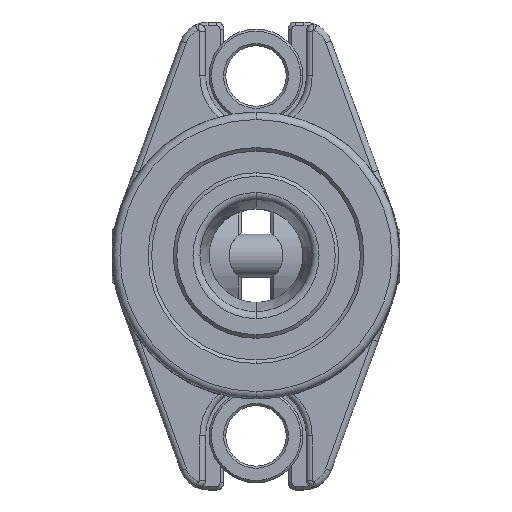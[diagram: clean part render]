
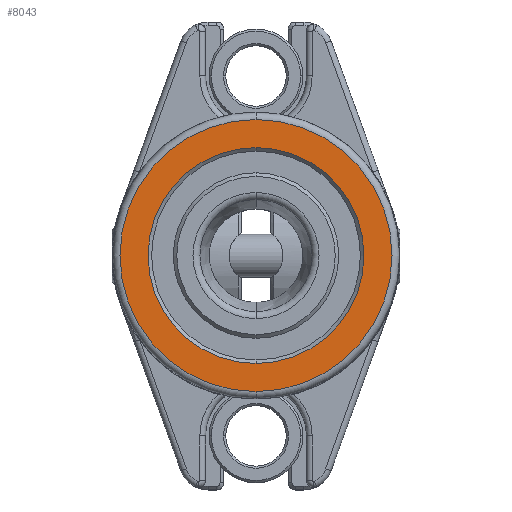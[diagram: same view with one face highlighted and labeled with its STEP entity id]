
A CAD part, top view. The second image highlights one B-rep face of the part: STEP entity #8043.
In plain terms, the highlighted planar face has unit normal (0, 0, 1).
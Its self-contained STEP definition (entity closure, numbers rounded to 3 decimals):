
#277 = CIRCLE ( 'NONE', #2937, 15. ) ;
#993 = EDGE_CURVE ( 'NONE', #7659, #11112, #3918, .T. ) ;
#1413 = DIRECTION ( 'NONE',  ( 0., -1., 0. ) ) ;
#1799 = DIRECTION ( 'NONE',  ( 0., 0., 1. ) ) ;
#2049 = ORIENTED_EDGE ( 'NONE', *, *, #6585, .T. ) ;
#2607 = VERTEX_POINT ( 'NONE', #13479 ) ;
#2747 = AXIS2_PLACEMENT_3D ( 'NONE', #2814, #7162, #6132 ) ;
#2814 = CARTESIAN_POINT ( 'NONE',  ( 6.5, 0., 40. ) ) ;
#2937 = AXIS2_PLACEMENT_3D ( 'NONE', #6980, #3866, #4772 ) ;
#3309 = DIRECTION ( 'NONE',  ( 0., 0., -1. ) ) ;
#3550 = EDGE_CURVE ( 'NONE', #7640, #2607, #8873, .T. ) ;
#3654 = ORIENTED_EDGE ( 'NONE', *, *, #3550, .T. ) ;
#3828 = ORIENTED_EDGE ( 'NONE', *, *, #993, .T. ) ;
#3866 = DIRECTION ( 'NONE',  ( 0., 0., -1. ) ) ;
#3918 = CIRCLE ( 'NONE', #5692, 15. ) ;
#4390 = DIRECTION ( 'NONE',  ( 0., 0., 1. ) ) ;
#4456 = CARTESIAN_POINT ( 'NONE',  ( 0., 0., 40. ) ) ;
#4772 = DIRECTION ( 'NONE',  ( 0., 1., 0. ) ) ;
#4998 = DIRECTION ( 'NONE',  ( 0., -1., 0. ) ) ;
#5358 = EDGE_LOOP ( 'NONE', ( #3828, #2049 ) ) ;
#5692 = AXIS2_PLACEMENT_3D ( 'NONE', #12812, #3309, #11764 ) ;
#6132 = DIRECTION ( 'NONE',  ( 0., -1., 0. ) ) ;
#6237 = CARTESIAN_POINT ( 'NONE',  ( 0., -15., 40. ) ) ;
#6395 = EDGE_CURVE ( 'NONE', #2607, #7640, #12446, .T. ) ;
#6470 = AXIS2_PLACEMENT_3D ( 'NONE', #11105, #1799, #4998 ) ;
#6585 = EDGE_CURVE ( 'NONE', #11112, #7659, #277, .T. ) ;
#6980 = CARTESIAN_POINT ( 'NONE',  ( 0., 0., 40. ) ) ;
#7162 = DIRECTION ( 'NONE',  ( 0., 0., 1. ) ) ;
#7640 = VERTEX_POINT ( 'NONE', #8433 ) ;
#7659 = VERTEX_POINT ( 'NONE', #6237 ) ;
#8043 = ADVANCED_FACE ( 'NONE', ( #8067, #9174 ), #8195, .T. ) ;
#8067 = FACE_OUTER_BOUND ( 'NONE', #10409, .T. ) ;
#8195 = PLANE ( 'NONE',  #2747 ) ;
#8433 = CARTESIAN_POINT ( 'NONE',  ( 0., 18.9, 40. ) ) ;
#8873 = CIRCLE ( 'NONE', #12644, 18.9 ) ;
#8959 = CARTESIAN_POINT ( 'NONE',  ( 0., 15., 40. ) ) ;
#9174 = FACE_BOUND ( 'NONE', #5358, .T. ) ;
#10409 = EDGE_LOOP ( 'NONE', ( #11850, #3654 ) ) ;
#11105 = CARTESIAN_POINT ( 'NONE',  ( 0., 0., 40. ) ) ;
#11112 = VERTEX_POINT ( 'NONE', #8959 ) ;
#11764 = DIRECTION ( 'NONE',  ( 0., 1., 0. ) ) ;
#11850 = ORIENTED_EDGE ( 'NONE', *, *, #6395, .T. ) ;
#12446 = CIRCLE ( 'NONE', #6470, 18.9 ) ;
#12644 = AXIS2_PLACEMENT_3D ( 'NONE', #4456, #4390, #1413 ) ;
#12812 = CARTESIAN_POINT ( 'NONE',  ( 0., 0., 40. ) ) ;
#13479 = CARTESIAN_POINT ( 'NONE',  ( 0., -18.9, 40. ) ) ;
